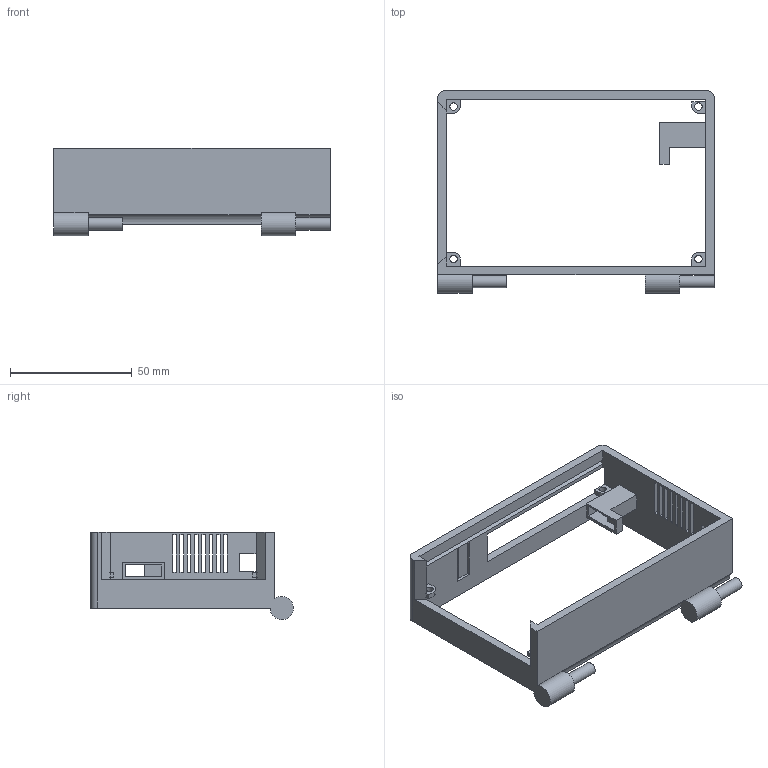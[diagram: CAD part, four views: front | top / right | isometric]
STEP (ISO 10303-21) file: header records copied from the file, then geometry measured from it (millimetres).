
FILE_DESCRIPTION(('STEP AP242 Edition 2','STEP AP242 Edition 2''CAx-IF Rec.Pracs.---Representation and Presentation of Product Manufacturing Information (PMI)---4.0---2014-10-13','STEP AP242 Edition 2''CAx-IF Rec.Pracs.---Representation and Presentation of Product Manufacturing Information (PMI)---4.0---2014-10-13''CAx-IF Rec.Pracs.---3D Tessellated Geometry---0.4---2014-09-14','STEP AP242 Edition 2''CAx-IF Rec.Pracs.---Representation and Presentation of Product Manufacturing Information (PMI)---4.0---2014-10-13''CAx-IF Rec.Pracs.---3D Tessellated Geometry---0.4---2014-09-14''2;1','STEP AP242 Edition 2''CAx-IF Rec.Pracs.---Representation and Presentation of Product Manufacturing Information (PMI)---4.0---2014-10-13''CAx-IF Rec.Pracs.---3D Tessellated Geometry---0.4---2014-09-14''2;1''CAx-IF Rec.Pracs.---User Defined Attributes---1.5---2016-08-15'),'2;1');
FILE_NAME('/vol/tmp/translate-371612670479758043/Case - Case Top Front.step','2026-03-18T15:31:30',(''),(''),'ST-DEVELOPER v20','ONSHAPE BY PTC INC, 1.212',' ');
FILE_SCHEMA(('AP242_MANAGED_MODEL_BASED_3D_ENGINEERING_MIM_LF { 1 0 10303 442 3 1 4 }'));
Length unit declared in the file: metre
Products named in the file (1): Case Top Front
Bounding box: 113.7 x 83.3 x 35.95 mm (x, y, z)
Volume: 33228.1 mm3; surface area: 25219.2 mm2
Topology: 1 solids, 1 shells, 123 faces, 354 edges, 232 vertices
Faces by surface type: plane 105, cylinder 18
Full cylindrical faces by diameter (mm): 3 x4, 5 x2
Entity records: 4028 total; most frequent: CARTESIAN_POINT 704, ORIENTED_EDGE 696, DIRECTION 632, EDGE_CURVE 348, LINE 312, VECTOR 312, VERTEX_POINT 232, EDGE_LOOP 162
